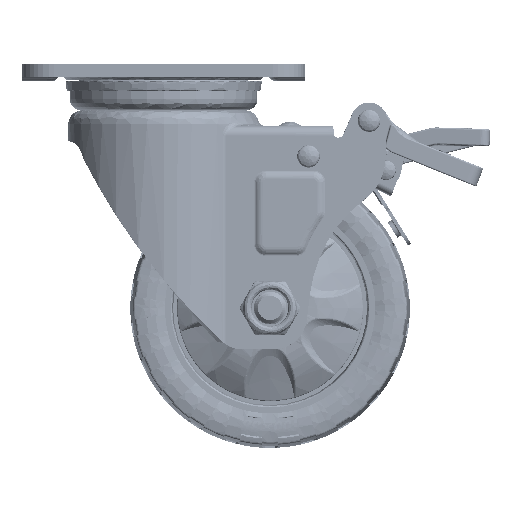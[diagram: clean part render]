
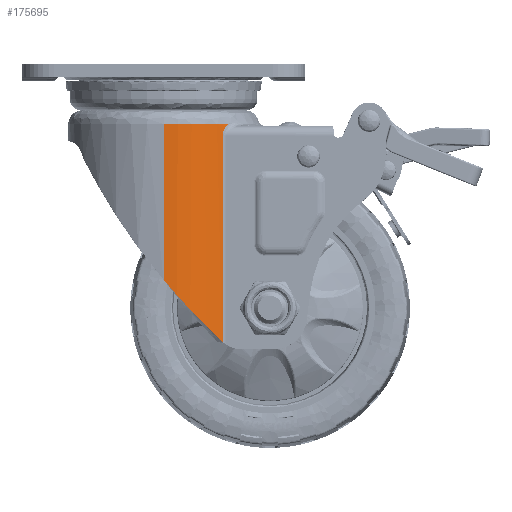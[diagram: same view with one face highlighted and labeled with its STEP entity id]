
A CAD part, top view. The second image highlights one B-rep face of the part: STEP entity #175695.
In plain terms, the highlighted cylindrical face has radius 34 mm (diameter 68 mm), a partial arc.
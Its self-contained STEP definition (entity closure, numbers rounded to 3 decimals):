
#2451 = ORIENTED_EDGE ( 'NONE', *, *, #323819, .T. ) ;
#15903 = FACE_OUTER_BOUND ( 'NONE', #341390, .T. ) ;
#30068 = CARTESIAN_POINT ( 'NONE',  ( 6.876, -73.885, 33.309 ) ) ;
#53532 = CIRCLE ( 'NONE', #288129, 34. ) ;
#55388 = EDGE_CURVE ( 'NONE', #219926, #209939, #187106, .T. ) ;
#57227 = CARTESIAN_POINT ( 'NONE',  ( 0., -66.022, 34. ) ) ;
#64386 = CARTESIAN_POINT ( 'NONE',  ( 0., -10.5, 34. ) ) ;
#66103 = CARTESIAN_POINT ( 'NONE',  ( 20.821, -87.956, 26.879 ) ) ;
#72885 = CARTESIAN_POINT ( 'NONE',  ( 21.075, -49.347, 26.681 ) ) ;
#80084 = B_SPLINE_CURVE_WITH_KNOTS ( 'NONE', 3,
 ( #97246, #95118, #228877, #416769, #192171, #92990, #255006, #226749, #358417, #285335 ),
 .UNSPECIFIED., .F., .F.,
 ( 4, 2, 2, 2, 4 ),
 ( 0., 0.25, 0.5, 0.75, 1. ),
 .UNSPECIFIED. ) ;
#91079 = EDGE_CURVE ( 'NONE', #217769, #239970, #80084, .T. ) ;
#91084 = ORIENTED_EDGE ( 'NONE', *, *, #55388, .F. ) ;
#92990 = CARTESIAN_POINT ( 'NONE',  ( 21.501, -12.585, 26.34 ) ) ;
#95118 = CARTESIAN_POINT ( 'NONE',  ( 22.792, -10.734, 25.231 ) ) ;
#97246 = CARTESIAN_POINT ( 'NONE',  ( 23.05, -10.5, 24.994 ) ) ;
#103215 = CARTESIAN_POINT ( 'NONE',  ( 19.151, -86.357, 28.112 ) ) ;
#103941 = B_SPLINE_CURVE_WITH_KNOTS ( 'NONE', 3,
 ( #165878, #297663, #103215, #265237, #396722, #234888, #364353, #267341, #261016, #30068, #366501, #394611, #196069, #230600 ),
 .UNSPECIFIED., .F., .F.,
 ( 4, 2, 2, 2, 2, 2, 4 ),
 ( 0., 0.046, 0.092, 0.183, 0.229, 0.275, 0.367 ),
 .UNSPECIFIED. ) ;
#108828 = CARTESIAN_POINT ( 'NONE',  ( 20.905, -88.037, 26.814 ) ) ;
#121821 = ORIENTED_EDGE ( 'NONE', *, *, #261314, .F. ) ;
#129545 = ORIENTED_EDGE ( 'NONE', *, *, #222435, .F. ) ;
#138116 = EDGE_CURVE ( 'NONE', #335327, #219926, #103941, .T. ) ;
#150144 = ORIENTED_EDGE ( 'NONE', *, *, #91079, .F. ) ;
#152672 = DIRECTION ( 'NONE',  ( 0., 1., 0. ) ) ;
#155317 = CARTESIAN_POINT ( 'NONE',  ( 21.075, -14.6, 26.681 ) ) ;
#165878 = CARTESIAN_POINT ( 'NONE',  ( 20.821, -87.956, 26.879 ) ) ;
#169864 = LINE ( 'NONE', #72885, #252622 ) ;
#171329 = CARTESIAN_POINT ( 'NONE',  ( 0., -10.5, 0. ) ) ;
#175695 = ADVANCED_FACE ( 'NONE', ( #15903 ), #309481, .T. ) ;
#184005 = CARTESIAN_POINT ( 'NONE',  ( 21.075, -88.195, 26.681 ) ) ;
#187106 = LINE ( 'NONE', #286637, #280690 ) ;
#192171 = CARTESIAN_POINT ( 'NONE',  ( 21.869, -11.891, 26.035 ) ) ;
#196069 = CARTESIAN_POINT ( 'NONE',  ( 1.68, -68.03, 34. ) ) ;
#209939 = VERTEX_POINT ( 'NONE', #64386 ) ;
#217769 = VERTEX_POINT ( 'NONE', #409427 ) ;
#219926 = VERTEX_POINT ( 'NONE', #57227 ) ;
#222435 = EDGE_CURVE ( 'NONE', #239970, #408331, #169864, .T. ) ;
#226749 = CARTESIAN_POINT ( 'NONE',  ( 21.133, -13.758, 26.635 ) ) ;
#228877 = CARTESIAN_POINT ( 'NONE',  ( 22.544, -10.995, 25.453 ) ) ;
#230600 = CARTESIAN_POINT ( 'NONE',  ( 0., -66.022, 34. ) ) ;
#234888 = CARTESIAN_POINT ( 'NONE',  ( 13.934, -81.29, 31.076 ) ) ;
#239970 = VERTEX_POINT ( 'NONE', #155317 ) ;
#244936 = ORIENTED_EDGE ( 'NONE', *, *, #138116, .F. ) ;
#251093 = DIRECTION ( 'NONE',  ( 0., 0., 1. ) ) ;
#252622 = VECTOR ( 'NONE', #295295, 1000. ) ;
#255006 = CARTESIAN_POINT ( 'NONE',  ( 21.347, -12.961, 26.464 ) ) ;
#261016 = CARTESIAN_POINT ( 'NONE',  ( 8.632, -75.784, 32.898 ) ) ;
#261314 = EDGE_CURVE ( 'NONE', #209939, #217769, #53532, .T. ) ;
#265237 = CARTESIAN_POINT ( 'NONE',  ( 17.432, -84.717, 29.209 ) ) ;
#267341 = CARTESIAN_POINT ( 'NONE',  ( 9.511, -76.719, 32.656 ) ) ;
#278724 = B_SPLINE_CURVE_WITH_KNOTS ( 'NONE', 3,
 ( #367895, #108828, #309635, #408801 ),
 .UNSPECIFIED., .F., .F.,
 ( 4, 4 ),
 ( 0., 1. ),
 .UNSPECIFIED. ) ;
#280690 = VECTOR ( 'NONE', #152672, 1000. ) ;
#285335 = CARTESIAN_POINT ( 'NONE',  ( 21.075, -14.6, 26.681 ) ) ;
#286637 = CARTESIAN_POINT ( 'NONE',  ( 0., -88.661, 34. ) ) ;
#288129 = AXIS2_PLACEMENT_3D ( 'NONE', #171329, #309448, #303096 ) ;
#295295 = DIRECTION ( 'NONE',  ( 0., -1., 0. ) ) ;
#297663 = CARTESIAN_POINT ( 'NONE',  ( 19.999, -87.154, 27.516 ) ) ;
#303096 = DIRECTION ( 'NONE',  ( 1., 0., 0. ) ) ;
#309448 = DIRECTION ( 'NONE',  ( 0., 1., 0. ) ) ;
#309481 = CYLINDRICAL_SURFACE ( 'NONE', #425484, 34. ) ;
#309635 = CARTESIAN_POINT ( 'NONE',  ( 20.989, -88.117, 26.748 ) ) ;
#323819 = EDGE_CURVE ( 'NONE', #335327, #408331, #278724, .T. ) ;
#335327 = VERTEX_POINT ( 'NONE', #66103 ) ;
#341390 = EDGE_LOOP ( 'NONE', ( #91084, #244936, #2451, #129545, #150144, #121821 ) ) ;
#358417 = CARTESIAN_POINT ( 'NONE',  ( 21.075, -14.179, 26.68 ) ) ;
#364353 = CARTESIAN_POINT ( 'NONE',  ( 12.163, -79.496, 31.804 ) ) ;
#366501 = CARTESIAN_POINT ( 'NONE',  ( 6.001, -72.923, 33.478 ) ) ;
#367895 = CARTESIAN_POINT ( 'NONE',  ( 20.821, -87.956, 26.879 ) ) ;
#374065 = DIRECTION ( 'NONE',  ( 0., 1., 0. ) ) ;
#394611 = CARTESIAN_POINT ( 'NONE',  ( 3.395, -70.011, 33.876 ) ) ;
#396722 = CARTESIAN_POINT ( 'NONE',  ( 16.561, -83.873, 29.71 ) ) ;
#408331 = VERTEX_POINT ( 'NONE', #184005 ) ;
#408801 = CARTESIAN_POINT ( 'NONE',  ( 21.075, -88.195, 26.681 ) ) ;
#409427 = CARTESIAN_POINT ( 'NONE',  ( 23.05, -10.5, 24.994 ) ) ;
#415057 = CARTESIAN_POINT ( 'NONE',  ( 0., -88.661, 0. ) ) ;
#416769 = CARTESIAN_POINT ( 'NONE',  ( 22.082, -11.574, 25.855 ) ) ;
#425484 = AXIS2_PLACEMENT_3D ( 'NONE', #415057, #374065, #251093 ) ;
